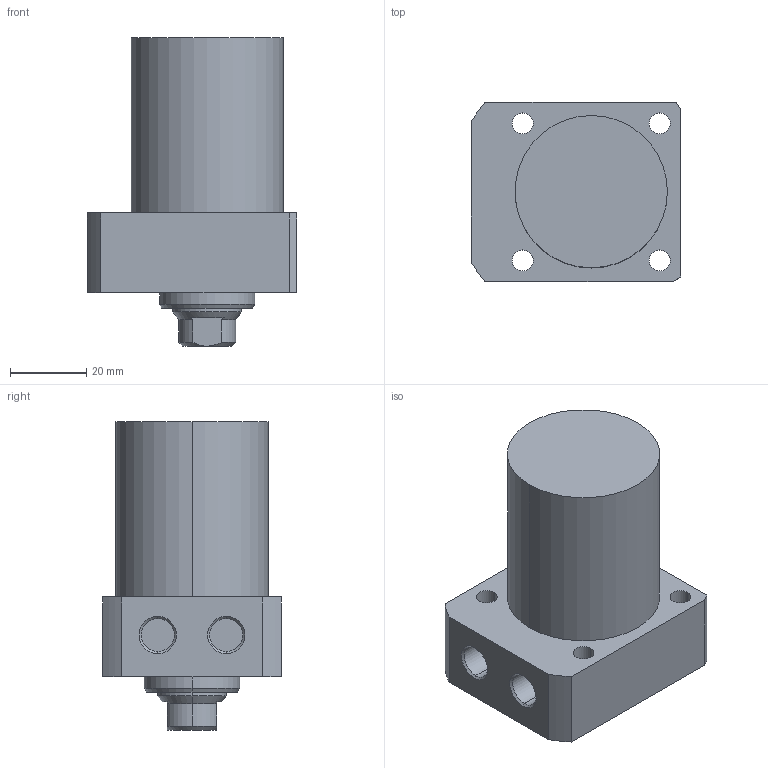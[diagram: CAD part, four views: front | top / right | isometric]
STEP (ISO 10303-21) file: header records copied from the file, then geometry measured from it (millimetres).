
FILE_DESCRIPTION (( 'STEP AP203' ), '1' );
FILE_NAME ('CLL-R040-CA-035.STEP', '2017-05-10T11:49:24', ( '' ), ( '' ), 'SwSTEP 2.0', 'SolidWorks 2015', '' );
FILE_SCHEMA (( 'CONFIG_CONTROL_DESIGN' ));
Length unit declared in the file: millimetre
Products named in the file (1): CLL-R040-CA-035
Bounding box: 55 x 47 x 81 mm (x, y, z)
Volume: 110869.7 mm3; surface area: 18244.5 mm2
Topology: 1 solids, 1 shells, 63 faces, 147 edges, 92 vertices
Faces by surface type: cylinder 29, plane 19, cone 15
Entity records: 1913 total; most frequent: DIRECTION 338, CARTESIAN_POINT 337, ORIENTED_EDGE 290, EDGE_CURVE 145, AXIS2_PLACEMENT_3D 137, VERTEX_POINT 92, EDGE_LOOP 79, CIRCLE 73
